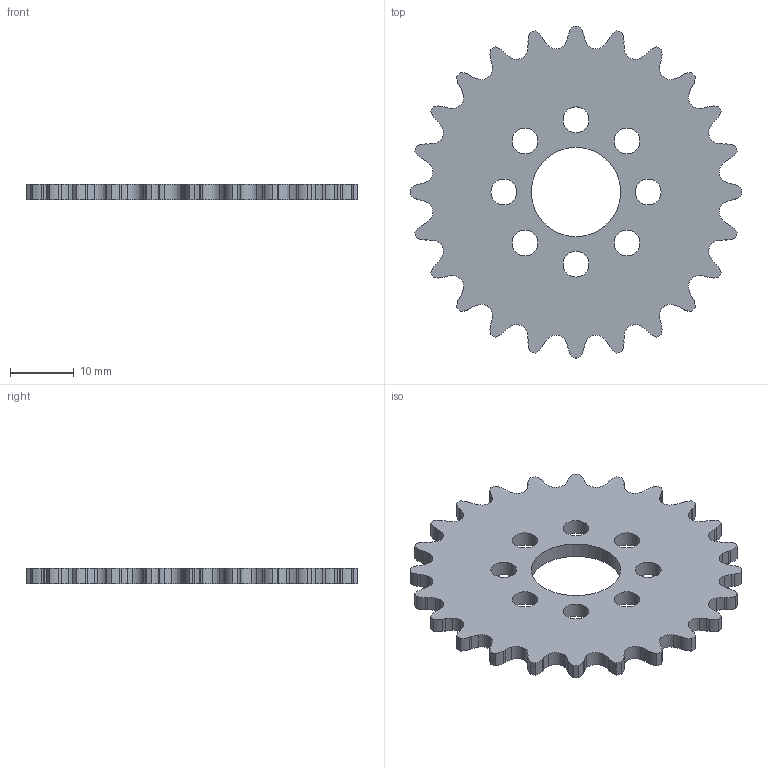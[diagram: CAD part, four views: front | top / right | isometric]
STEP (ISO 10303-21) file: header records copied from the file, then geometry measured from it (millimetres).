
FILE_DESCRIPTION (( 'STEP AP203' ), '1' );
FILE_NAME ('3314-0014-0024.STEP', '2023-04-18T20:08:53', ( '' ), ( '' ), 'SwSTEP 2.0', 'SolidWorks 2016', '' );
FILE_SCHEMA (( 'CONFIG_CONTROL_DESIGN' ));
Length unit declared in the file: inch
Products named in the file (1): 3314-0014-0024
Bounding box: 52.04 x 52.04 x 2.36 mm (x, y, z)
Volume: 3709.5 mm3; surface area: 4058.8 mm2
Topology: 1 solids, 1 shells, 227 faces, 675 edges, 450 vertices
Faces by surface type: cylinder 177, plane 50
Entity records: 7918 total; most frequent: DIRECTION 1485, CARTESIAN_POINT 1353, ORIENTED_EDGE 1350, EDGE_CURVE 675, AXIS2_PLACEMENT_3D 582, VERTEX_POINT 450, CIRCLE 354, LINE 321
